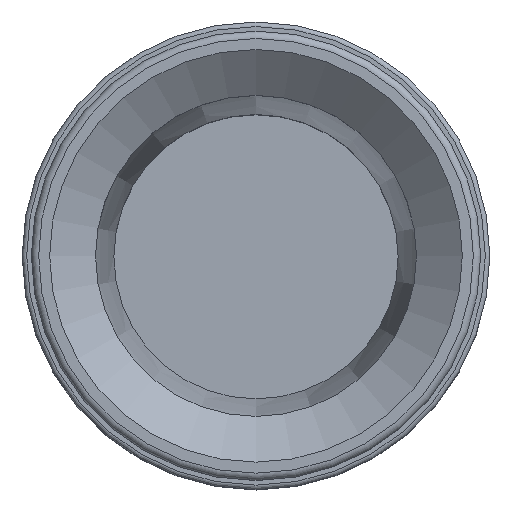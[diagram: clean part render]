
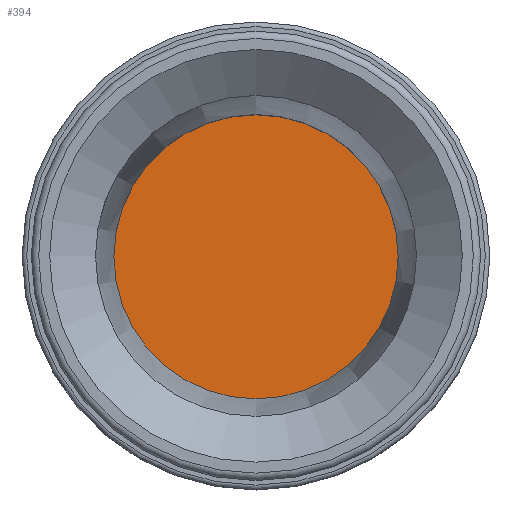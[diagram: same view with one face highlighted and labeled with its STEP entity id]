
A CAD part, top view. The second image highlights one B-rep face of the part: STEP entity #394.
In plain terms, the highlighted planar face has unit normal (0, 0, 1) as drawn and (0, 0, -1) by its records, which use the part's own axes.
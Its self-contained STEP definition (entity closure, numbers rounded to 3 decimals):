
#394=ADVANCED_FACE('',(#632),#633,.F.);
#632=FACE_OUTER_BOUND('',#961,.T.);
#633=PLANE('',#962);
#961=EDGE_LOOP('',(#1569));
#962=AXIS2_PLACEMENT_3D('',#1570,#1571,#1572);
#1569=ORIENTED_EDGE('',*,*,#2142,.T.);
#1570=CARTESIAN_POINT('',(-15.5,0.,75.0));
#1571=DIRECTION('',(0.0,0.,1.0));
#1572=DIRECTION('',(0.0,-1.0,0.));
#2142=EDGE_CURVE('',#2484,#2484,#2485,.T.);
#2484=VERTEX_POINT('',#3052);
#2485=CIRCLE('',#3053,15.5);
#3052=CARTESIAN_POINT('',(0.0,15.5,75.0));
#3053=AXIS2_PLACEMENT_3D('',#3782,#3783,#3784);
#3782=CARTESIAN_POINT('',(0.0,0.,75.0));
#3783=DIRECTION('',(0.0,0.,-1.0));
#3784=DIRECTION('',(0.0,1.0,0.));
